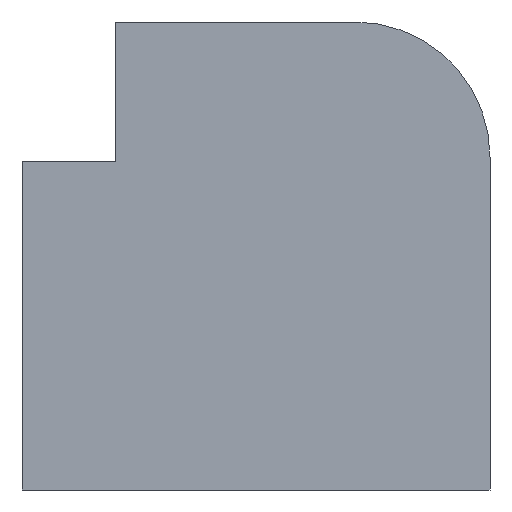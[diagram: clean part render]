
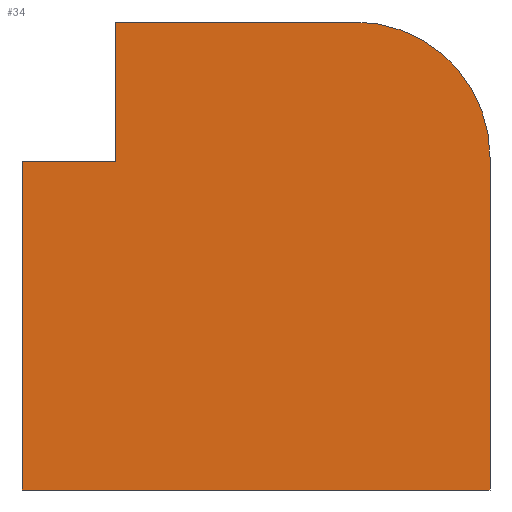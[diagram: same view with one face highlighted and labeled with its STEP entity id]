
A CAD part, front view. The second image highlights one B-rep face of the part: STEP entity #34.
In plain terms, the highlighted planar face has unit normal (0, -1, 0).
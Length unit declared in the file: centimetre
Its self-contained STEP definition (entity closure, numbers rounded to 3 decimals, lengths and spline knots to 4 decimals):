
#15 = LINE ( 'NONE', #509, #137 ) ;
#32 = CIRCLE ( 'NONE', #839, 288.7314 ) ;
#34 = ADVANCED_FACE ( 'NONE', ( #300 ), #232, .F. ) ;
#46 = VERTEX_POINT ( 'NONE', #455 ) ;
#51 = VERTEX_POINT ( 'NONE', #593 ) ;
#65 = CARTESIAN_POINT ( 'NONE',  ( 711.2686, 0., 711.2686 ) ) ;
#67 = AXIS2_PLACEMENT_3D ( 'NONE', #582, #665, #527 ) ;
#107 = CARTESIAN_POINT ( 'NONE',  ( 0., 0., 0. ) ) ;
#137 = VECTOR ( 'NONE', #413, 100. ) ;
#157 = CARTESIAN_POINT ( 'NONE',  ( 0., 0., 702.3572 ) ) ;
#171 = EDGE_CURVE ( 'NONE', #556, #355, #830, .T. ) ;
#178 = ORIENTED_EDGE ( 'NONE', *, *, #649, .F. ) ;
#188 = EDGE_CURVE ( 'NONE', #556, #507, #284, .T. ) ;
#197 = VERTEX_POINT ( 'NONE', #562 ) ;
#210 = VECTOR ( 'NONE', #831, 100. ) ;
#216 = DIRECTION ( 'NONE',  ( 1., 0., 0. ) ) ;
#222 = EDGE_CURVE ( 'NONE', #355, #545, #15, .T. ) ;
#229 = ORIENTED_EDGE ( 'NONE', *, *, #264, .F. ) ;
#232 = PLANE ( 'NONE',  #67 ) ;
#235 = VECTOR ( 'NONE', #515, 100. ) ;
#264 = EDGE_CURVE ( 'NONE', #46, #545, #723, .T. ) ;
#281 = ORIENTED_EDGE ( 'NONE', *, *, #171, .T. ) ;
#284 = LINE ( 'NONE', #768, #751 ) ;
#300 = FACE_OUTER_BOUND ( 'NONE', #415, .T. ) ;
#355 = VERTEX_POINT ( 'NONE', #107 ) ;
#364 = CARTESIAN_POINT ( 'NONE',  ( 1000., 0., 1000. ) ) ;
#373 = DIRECTION ( 'NONE',  ( 0., 0., -1. ) ) ;
#413 = DIRECTION ( 'NONE',  ( 1., 0., 0. ) ) ;
#415 = EDGE_LOOP ( 'NONE', ( #178, #735, #467, #281, #497, #229, #561 ) ) ;
#455 = CARTESIAN_POINT ( 'NONE',  ( 1000., 0., 711.2686 ) ) ;
#467 = ORIENTED_EDGE ( 'NONE', *, *, #188, .F. ) ;
#495 = EDGE_CURVE ( 'NONE', #507, #51, #766, .T. ) ;
#497 = ORIENTED_EDGE ( 'NONE', *, *, #222, .T. ) ;
#507 = VERTEX_POINT ( 'NONE', #626 ) ;
#508 = CARTESIAN_POINT ( 'NONE',  ( 1000., 0., 0. ) ) ;
#509 = CARTESIAN_POINT ( 'NONE',  ( 0., 0., 0. ) ) ;
#515 = DIRECTION ( 'NONE',  ( 0., 0., 1. ) ) ;
#526 = LINE ( 'NONE', #667, #811 ) ;
#527 = DIRECTION ( 'NONE',  ( 0., 0., 1. ) ) ;
#545 = VERTEX_POINT ( 'NONE', #508 ) ;
#556 = VERTEX_POINT ( 'NONE', #157 ) ;
#561 = ORIENTED_EDGE ( 'NONE', *, *, #858, .T. ) ;
#562 = CARTESIAN_POINT ( 'NONE',  ( 711.2686, 0., 1000. ) ) ;
#575 = CARTESIAN_POINT ( 'NONE',  ( 0., 0., 1000. ) ) ;
#578 = CARTESIAN_POINT ( 'NONE',  ( 199.79, 0., 702.3572 ) ) ;
#582 = CARTESIAN_POINT ( 'NONE',  ( 0., 0., 1000. ) ) ;
#593 = CARTESIAN_POINT ( 'NONE',  ( 199.79, 0., 1000. ) ) ;
#601 = DIRECTION ( 'NONE',  ( 1., 0., 0. ) ) ;
#626 = CARTESIAN_POINT ( 'NONE',  ( 199.79, 0., 702.3572 ) ) ;
#635 = VECTOR ( 'NONE', #373, 100. ) ;
#649 = EDGE_CURVE ( 'NONE', #51, #197, #526, .T. ) ;
#665 = DIRECTION ( 'NONE',  ( 0., 1., 0. ) ) ;
#667 = CARTESIAN_POINT ( 'NONE',  ( 0., 0., 1000. ) ) ;
#723 = LINE ( 'NONE', #364, #210 ) ;
#735 = ORIENTED_EDGE ( 'NONE', *, *, #495, .F. ) ;
#751 = VECTOR ( 'NONE', #216, 100. ) ;
#766 = LINE ( 'NONE', #578, #235 ) ;
#768 = CARTESIAN_POINT ( 'NONE',  ( 0., 0., 702.3572 ) ) ;
#803 = DIRECTION ( 'NONE',  ( 0., -1., 0. ) ) ;
#811 = VECTOR ( 'NONE', #601, 100. ) ;
#813 = DIRECTION ( 'NONE',  ( 0., 0., 1. ) ) ;
#830 = LINE ( 'NONE', #575, #635 ) ;
#831 = DIRECTION ( 'NONE',  ( 0., 0., -1. ) ) ;
#839 = AXIS2_PLACEMENT_3D ( 'NONE', #65, #803, #813 ) ;
#858 = EDGE_CURVE ( 'NONE', #46, #197, #32, .T. ) ;
